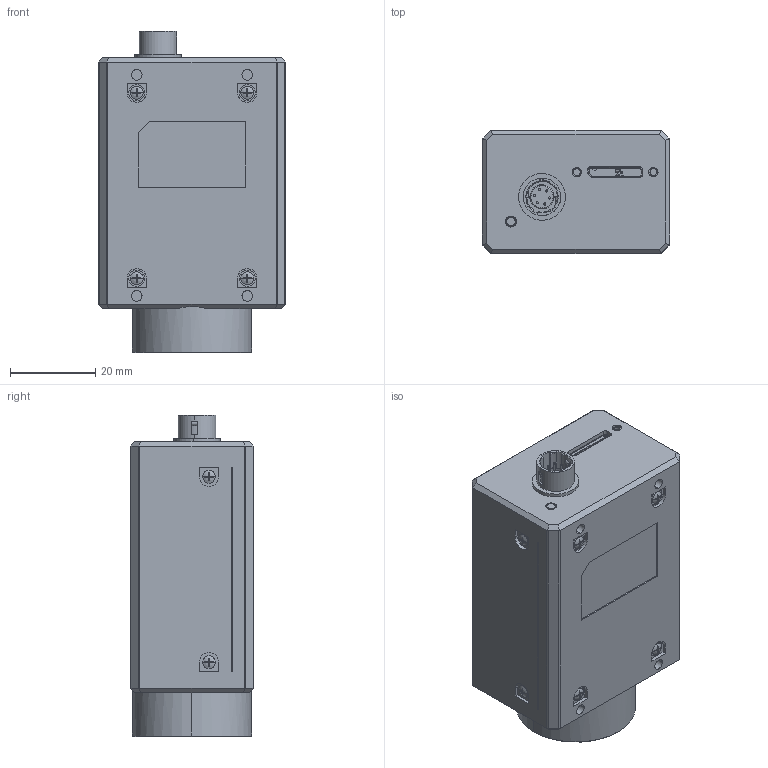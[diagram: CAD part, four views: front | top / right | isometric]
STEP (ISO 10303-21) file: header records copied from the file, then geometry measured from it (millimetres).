
FILE_DESCRIPTION((''),'2;1');
FILE_NAME('00-CH250-90U_ASM_ASM_ASM','2021-04-27T16:21:54',('sunli10'),(''),'CREO PARAMETRIC BY PTC INC, 2017260','CREO PARAMETRIC BY PTC INC, 2017260','');
FILE_SCHEMA(('CONFIG_CONTROL_DESIGN'));
Length unit declared in the file: millimetre
Products named in the file (6): MSBR-5; MSBR-4; MSBR-3; MSBR-2; MSBR-1; 00-CH250-90U_ASM_ASM_ASM
Assembly tree (5 placements, depth 2):
  00-CH250-90U_ASM_ASM_ASM
    MSBR-5
    MSBR-4
    MSBR-3
    MSBR-2
    MSBR-1
Bounding box: 44 x 29 x 75.68 mm (x, y, z)
Volume: 74056.9 mm3; surface area: 23404.2 mm2
Topology: 5 solids, 12 shells, 1645 faces, 4725 edges, 3077 vertices
Faces by surface type: plane 987, cylinder 526, cone 68, torus 32, sphere 22, bspline 10
Entity records: 55260 total; most frequent: CARTESIAN_POINT 11166, ORIENTED_EDGE 9450, DIRECTION 9142, EDGE_CURVE 4725, AXIS2_PLACEMENT_3D 3086, VERTEX_POINT 3077, VECTOR 2970, LINE 2970
